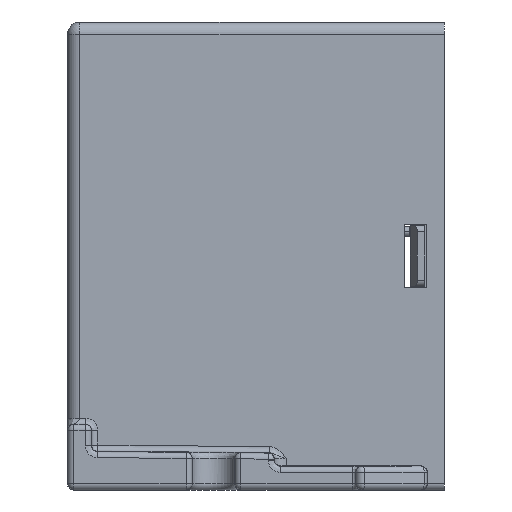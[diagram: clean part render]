
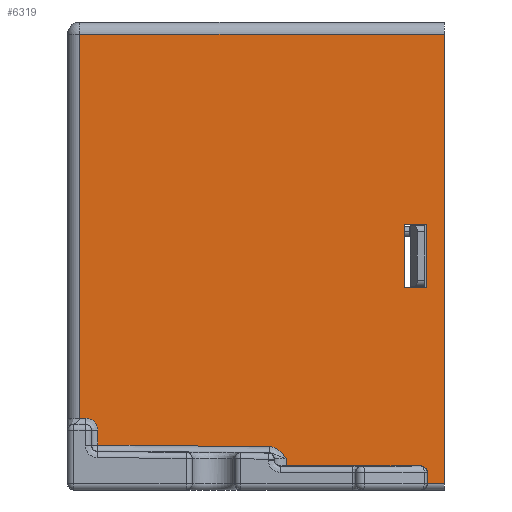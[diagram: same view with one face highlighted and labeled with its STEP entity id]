
A CAD part, left-side view. The second image highlights one B-rep face of the part: STEP entity #6319.
In plain terms, the highlighted planar face has unit normal (-1, 0, 0).
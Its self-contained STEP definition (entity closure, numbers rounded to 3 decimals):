
#1513=DIRECTION('',(0.,0.,1.));
#1514=VECTOR('',#1513,37.);
#1515=CARTESIAN_POINT('',(-29.2,-15.5,-18.75));
#1516=LINE('',#1515,#1514);
#1562=DIRECTION('',(0.,-1.,0.));
#1563=VECTOR('',#1562,1.8);
#1564=CARTESIAN_POINT('',(-29.2,-12.2,-2.6));
#1565=LINE('',#1564,#1563);
#1566=DIRECTION('',(0.,0.,1.));
#1567=VECTOR('',#1566,5.2);
#1568=CARTESIAN_POINT('',(-29.2,-14.,-2.6));
#1569=LINE('',#1568,#1567);
#1570=DIRECTION('',(0.,1.,0.));
#1571=VECTOR('',#1570,1.8);
#1572=CARTESIAN_POINT('',(-29.2,-14.,2.6));
#1573=LINE('',#1572,#1571);
#1574=DIRECTION('',(0.,0.,-1.));
#1575=VECTOR('',#1574,5.2);
#1576=CARTESIAN_POINT('',(-29.2,-12.2,2.6));
#1577=LINE('',#1576,#1575);
#1578=DIRECTION('',(0.,1.,0.));
#1579=VECTOR('',#1578,13.);
#1580=CARTESIAN_POINT('',(-29.2,-15.5,-18.75));
#1581=LINE('',#1580,#1579);
#1582=DIRECTION('',(0.,0.,-1.));
#1583=VECTOR('',#1582,2.065);
#1584=CARTESIAN_POINT('',(-29.2,-2.5,
-16.685));
#1585=LINE('',#1584,#1583);
#1586=CARTESIAN_POINT('',(-29.2,-1.098,
-15.682));
#1587=CARTESIAN_POINT('',(-29.2,-1.154,
-15.682));
#1588=CARTESIAN_POINT('',(-29.2,-1.269,
-15.691));
#1589=CARTESIAN_POINT('',(-29.2,-1.454,
-15.735));
#1590=CARTESIAN_POINT('',(-29.2,-1.643,
-15.813));
#1591=CARTESIAN_POINT('',(-29.2,-1.831,
-15.926));
#1592=CARTESIAN_POINT('',(-29.2,-2.011,
-16.074));
#1593=CARTESIAN_POINT('',(-29.2,-2.181,
-16.252));
#1594=CARTESIAN_POINT('',(-29.2,-2.343,
-16.459));
#1595=CARTESIAN_POINT('',(-29.2,-2.447,
-16.608));
#1596=CARTESIAN_POINT('',(-29.2,-2.5,
-16.685));
#1598=DIRECTION('',(0.,-1.,-0.009));
#1599=VECTOR('',#1598,14.103);
#1600=CARTESIAN_POINT('',(-29.2,13.004,-15.559));
#1601=LINE('',#1600,#1599);
#1602=DIRECTION('',(0.,0.,-1.));
#1603=VECTOR('',#1602,1.209);
#1604=CARTESIAN_POINT('',(-29.2,13.004,
-14.35));
#1605=LINE('',#1604,#1603);
#1606=CARTESIAN_POINT('',(-29.2,14.004,
-13.35));
#1607=CARTESIAN_POINT('',(-29.2,13.915,
-13.35));
#1608=CARTESIAN_POINT('',(-29.2,13.743,
-13.373));
#1609=CARTESIAN_POINT('',(-29.2,13.498,
-13.474));
#1610=CARTESIAN_POINT('',(-29.2,13.289,
-13.635));
#1611=CARTESIAN_POINT('',(-29.2,13.129,
-13.844));
#1612=CARTESIAN_POINT('',(-29.2,13.027,
-14.089));
#1613=CARTESIAN_POINT('',(-29.2,13.004,
-14.261));
#1614=CARTESIAN_POINT('',(-29.2,13.004,
-14.35));
#1616=DIRECTION('',(0.,-1.,0.));
#1617=VECTOR('',#1616,0.496);
#1618=CARTESIAN_POINT('',(-29.2,14.5,-13.35));
#1619=LINE('',#1618,#1617);
#1620=DIRECTION('',(0.,0.,-1.));
#1621=VECTOR('',#1620,31.6);
#1622=CARTESIAN_POINT('',(-29.2,14.5,18.25));
#1623=LINE('',#1622,#1621);
#1624=DIRECTION('',(0.,-1.,0.));
#1625=VECTOR('',#1624,30.);
#1626=CARTESIAN_POINT('',(-29.2,14.5,18.25));
#1627=LINE('',#1626,#1625);
#2411=CARTESIAN_POINT('',(-29.2,-2.5,
-16.685));
#3603=CARTESIAN_POINT('',(-29.2,-12.2,-2.6));
#3604=CARTESIAN_POINT('',(-29.2,-14.,-2.6));
#3605=VERTEX_POINT('',#3603);
#3606=VERTEX_POINT('',#3604);
#3607=CARTESIAN_POINT('',(-29.2,-14.,2.6));
#3608=VERTEX_POINT('',#3607);
#3609=CARTESIAN_POINT('',(-29.2,-12.2,2.6));
#3610=VERTEX_POINT('',#3609);
#3665=CARTESIAN_POINT('',(-29.2,14.5,18.25));
#3666=VERTEX_POINT('',#3665);
#3693=VERTEX_POINT('',#2411);
#3694=VERTEX_POINT('',#1586);
#3697=CARTESIAN_POINT('',(-29.2,13.004,-15.559));
#3698=VERTEX_POINT('',#3697);
#3699=CARTESIAN_POINT('',(-29.2,14.5,-13.35));
#3700=CARTESIAN_POINT('',(-29.2,14.004,
-13.35));
#3701=VERTEX_POINT('',#3699);
#3702=VERTEX_POINT('',#3700);
#3713=CARTESIAN_POINT('',(-29.2,-15.5,-18.75));
#3715=VERTEX_POINT('',#3713);
#3719=CARTESIAN_POINT('',(-29.2,-2.5,-18.75));
#3720=VERTEX_POINT('',#3719);
#3967=CARTESIAN_POINT('',(-29.2,-15.5,18.25));
#3968=VERTEX_POINT('',#3967);
#4025=CARTESIAN_POINT('',(-29.2,13.004,
-14.35));
#4026=VERTEX_POINT('',#4025);
#6284=CARTESIAN_POINT('',(-29.2,15.5,-19.25));
#6285=DIRECTION('',(-1.,0.,0.));
#6286=DIRECTION('',(0.,-1.,0.));
#6287=AXIS2_PLACEMENT_3D('',#6284,#6285,#6286);
#6288=PLANE('',#6287);
#6290=ORIENTED_EDGE('',*,*,#6289,.T.);
#6292=ORIENTED_EDGE('',*,*,#6291,.F.);
#6294=ORIENTED_EDGE('',*,*,#6293,.F.);
#6296=ORIENTED_EDGE('',*,*,#6295,.F.);
#6298=ORIENTED_EDGE('',*,*,#6297,.F.);
#6300=ORIENTED_EDGE('',*,*,#6299,.F.);
#6302=ORIENTED_EDGE('',*,*,#6301,.F.);
#6304=ORIENTED_EDGE('',*,*,#6303,.F.);
#6306=ORIENTED_EDGE('',*,*,#6305,.T.);
#6307=ORIENTED_EDGE('',*,*,#6204,.F.);
#6308=EDGE_LOOP('',(#6290,#6292,#6294,#6296,#6298,#6300,#6302,#6304,#6306,
#6307));
#6309=FACE_OUTER_BOUND('',#6308,.F.);
#6311=ORIENTED_EDGE('',*,*,#6310,.T.);
#6313=ORIENTED_EDGE('',*,*,#6312,.T.);
#6314=ORIENTED_EDGE('',*,*,#6271,.T.);
#6316=ORIENTED_EDGE('',*,*,#6315,.T.);
#6317=EDGE_LOOP('',(#6311,#6313,#6314,#6316));
#6318=FACE_BOUND('',#6317,.F.);
#6319=ADVANCED_FACE('',(#6309,#6318),#6288,.T.);
#1597=B_SPLINE_CURVE_WITH_KNOTS('',3,(#1586,#1587,#1588,#1589,#1590,#1591,#1592,
#1593,#1594,#1595,#1596),.UNSPECIFIED.,.F.,.F.,(4,1,1,1,1,1,1,1,4),(0.,
0.125,0.25,0.375,0.5,0.625,0.75,0.875,1.),.UNSPECIFIED.);
#1615=B_SPLINE_CURVE_WITH_KNOTS('',3,(#1606,#1607,#1608,#1609,#1610,#1611,#1612,
#1613,#1614),.UNSPECIFIED.,.F.,.F.,(4,1,1,1,1,1,4),(0.,0.167,
0.333,0.5,0.667,0.833,1.),
.UNSPECIFIED.);
#6204=EDGE_CURVE('',#3715,#3968,#1516,.T.);
#6271=EDGE_CURVE('',#3608,#3610,#1573,.T.);
#6289=EDGE_CURVE('',#3715,#3720,#1581,.T.);
#6291=EDGE_CURVE('',#3693,#3720,#1585,.T.);
#6293=EDGE_CURVE('',#3694,#3693,#1597,.T.);
#6295=EDGE_CURVE('',#3698,#3694,#1601,.T.);
#6297=EDGE_CURVE('',#4026,#3698,#1605,.T.);
#6299=EDGE_CURVE('',#3702,#4026,#1615,.T.);
#6301=EDGE_CURVE('',#3701,#3702,#1619,.T.);
#6303=EDGE_CURVE('',#3666,#3701,#1623,.T.);
#6305=EDGE_CURVE('',#3666,#3968,#1627,.T.);
#6310=EDGE_CURVE('',#3605,#3606,#1565,.T.);
#6312=EDGE_CURVE('',#3606,#3608,#1569,.T.);
#6315=EDGE_CURVE('',#3610,#3605,#1577,.T.);
